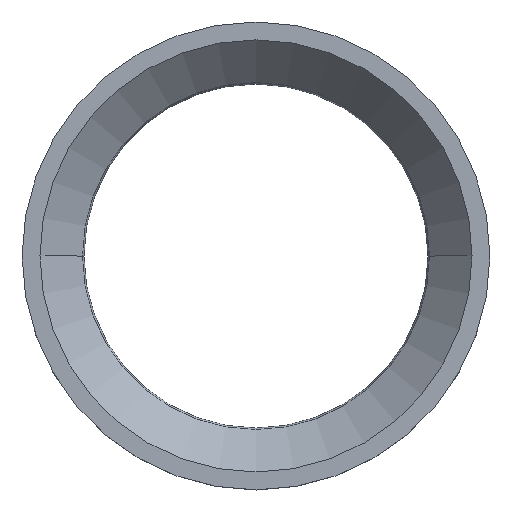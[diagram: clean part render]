
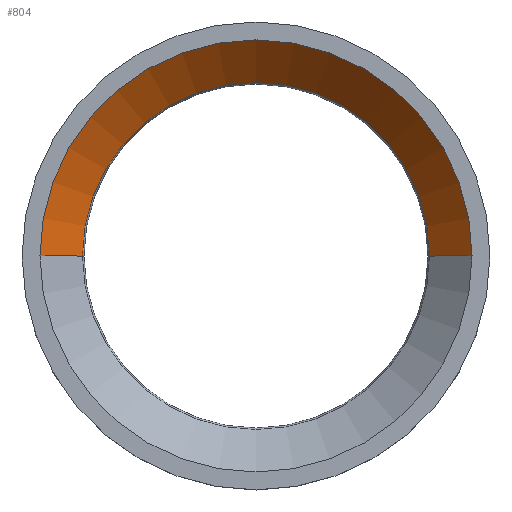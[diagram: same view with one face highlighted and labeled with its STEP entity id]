
A CAD part, top view. The second image highlights one B-rep face of the part: STEP entity #804.
In plain terms, the highlighted conical face has half-angle 45 degrees and reference radius 70.793 mm.
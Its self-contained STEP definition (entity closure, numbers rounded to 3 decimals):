
#112=DIRECTION('',(-0.707,0.,-0.707));
#113=VECTOR('',#112,21.799);
#114=CARTESIAN_POINT('',(78.5,0.,28.));
#115=LINE('',#114,#113);
#116=CARTESIAN_POINT('',(0.,0.,12.586));
#117=DIRECTION('',(0.,0.,1.));
#118=DIRECTION('',(1.,0.,0.));
#119=AXIS2_PLACEMENT_3D('',#116,#117,#118);
#121=DIRECTION('',(0.707,0.,-0.707));
#122=VECTOR('',#121,21.799);
#123=CARTESIAN_POINT('',(-78.5,0.,
28.));
#124=LINE('',#123,#122);
#140=CARTESIAN_POINT('',(0.,0.,28.));
#141=DIRECTION('',(0.,0.,-1.));
#142=DIRECTION('',(-1.,0.,0.));
#143=AXIS2_PLACEMENT_3D('',#140,#141,#142);
#519=CARTESIAN_POINT('',(78.5,0.,
28.));
#520=CARTESIAN_POINT('',(-78.5,0.,28.));
#521=VERTEX_POINT('',#519);
#522=VERTEX_POINT('',#520);
#527=CARTESIAN_POINT('',(-63.086,0.,
12.586));
#528=CARTESIAN_POINT('',(63.086,0.,12.586));
#529=VERTEX_POINT('',#527);
#530=VERTEX_POINT('',#528);
#792=CARTESIAN_POINT('',(0.,0.,20.293));
#793=DIRECTION('',(0.,0.,1.));
#794=DIRECTION('',(0.,-1.,0.));
#795=AXIS2_PLACEMENT_3D('',#792,#793,#794);
#796=CONICAL_SURFACE('',#795,70.793,45.);
#797=ORIENTED_EDGE('',*,*,#757,.T.);
#798=ORIENTED_EDGE('',*,*,#787,.F.);
#800=ORIENTED_EDGE('',*,*,#799,.T.);
#801=ORIENTED_EDGE('',*,*,#783,.T.);
#802=EDGE_LOOP('',(#797,#798,#800,#801));
#803=FACE_OUTER_BOUND('',#802,.F.);
#120=CIRCLE('',#119,63.086);
#144=CIRCLE('',#143,78.5);
#757=EDGE_CURVE('',#530,#529,#120,.T.);
#783=EDGE_CURVE('',#521,#530,#115,.T.);
#787=EDGE_CURVE('',#522,#529,#124,.T.);
#799=EDGE_CURVE('',#522,#521,#144,.T.);
#804=ADVANCED_FACE('',(#803),#796,.F.);
